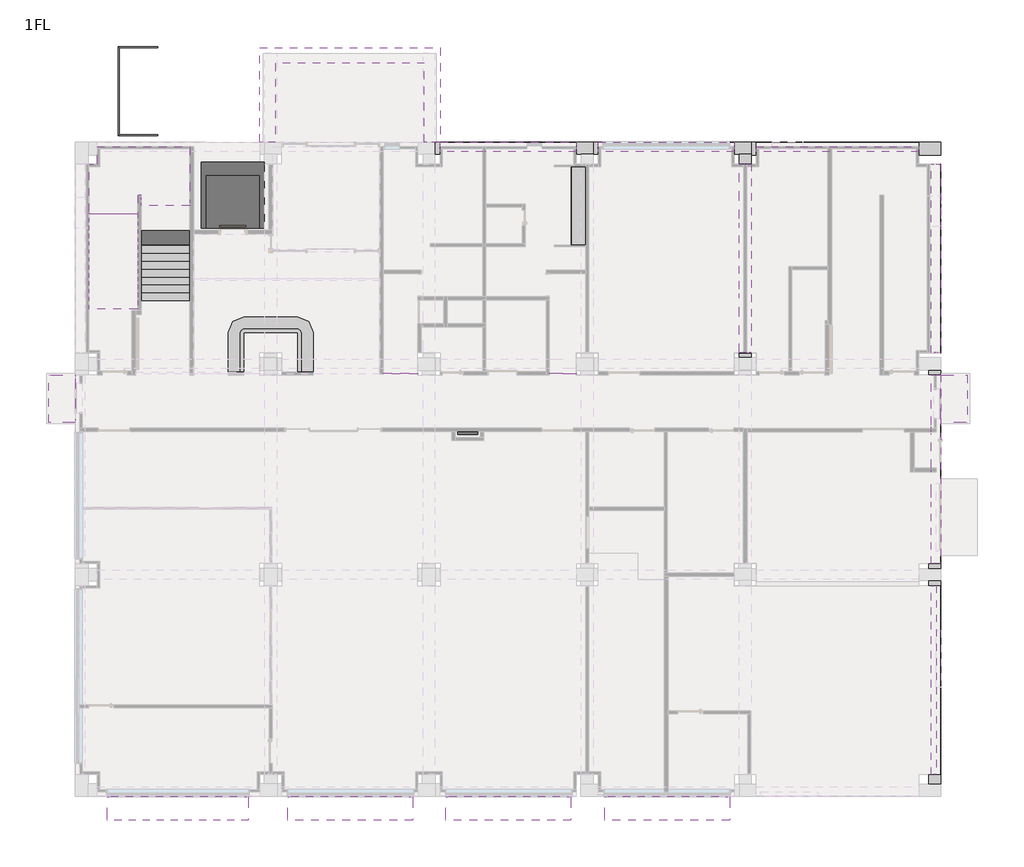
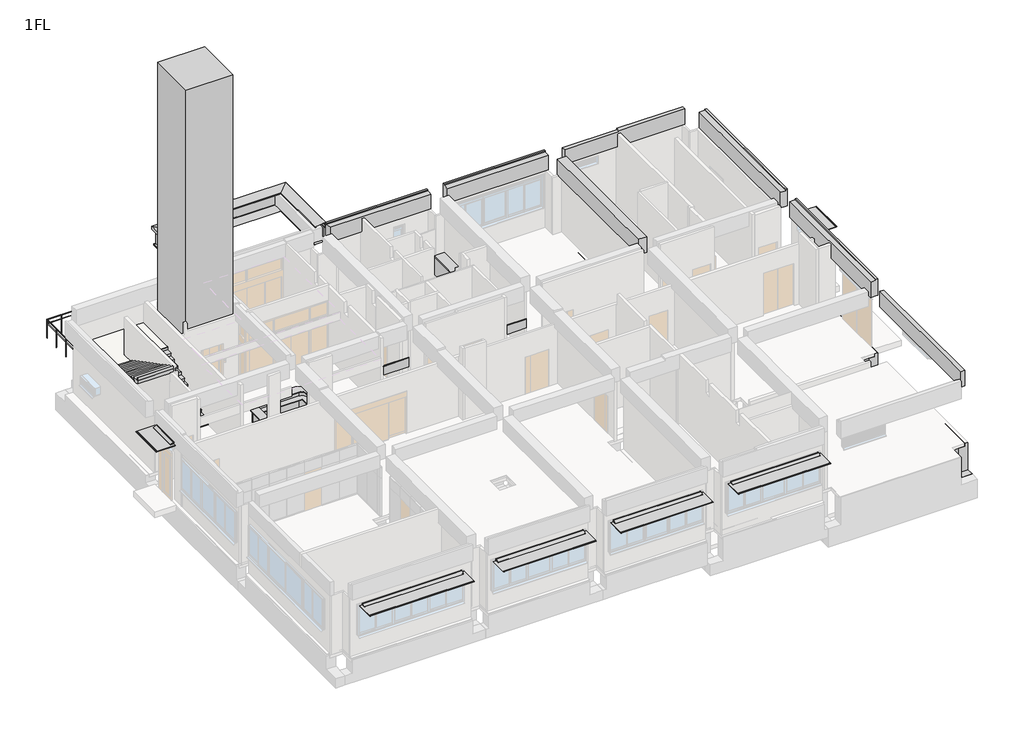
# One storey, part 7 of 7: 15 beams, 11 proxies, 2 stair flights, 1 flow terminal, 1 furniture element, 1 railing, 1 slab.
"""IFC4 building model written with IfcOpenShell, lengths in millimetres."""

from ifc_helpers import new_model, si_unit, frame, origin, place, context, project, spatial, polyline, outline, extrude, faceted_brep, transform, mapped, element, save
from components import generic_models_889831fe, generic_models_706210b3, specialty_equipment_ac76b24c, generic_models_86fe092a, mechanical_equipment_42b1760c, generic_models_8fc78ecc, generic_models_3a1368d3, generic_models_ea9e84d9, flow_terminal_46fab2b1, furniture_925915f6

model = new_model("IFC4")

# Units and contexts
model_context = context("Model", 3, world=origin())
ifc_project = project(units=[si_unit("LENGTHUNIT", "METRE", prefix="MILLI")], contexts=[model_context])

# Site, building, storey
site = spatial("IfcSite", under=ifc_project)
building = spatial("IfcBuilding", under=site)
storey = spatial("IfcBuildingStorey", under=building, Name="1FL", Elevation=0.0)

# Beams
placement = place(None, origin())
element("IfcBeam", 1, ObjectType="営_RC梁 : 2-RG1 350*850", at=placement, inside=storey, context=model_context, shape_type="Brep", body=[
    faceted_brep([(18580.0, 24050.0, 3150.0), (18580.0, 24250.0, 3150.0), (18580.0, 24420.0, 3150.0), (18580.0, 24420.0, 4000.0), (18580.0, 24335.0, 4000.0), (18580.0, 24335.0, 3940.0), (18580.0, 24250.0, 3940.0), (18580.0, 24050.0, 3940.0), (13420.0, 24420.0, 4000.0), (13420.0, 24420.0, 3150.0), (13420.0, 24250.0, 3150.0), (13420.0, 24050.0, 3150.0), (13420.0, 24050.0, 3940.0), (13420.0, 24250.0, 3940.0), (13420.0, 24335.0, 3940.0), (13420.0, 24335.0, 4000.0), (15040.0, 24050.0, 3150.0), (15160.0, 24050.0, 3150.0)], [[[0, 1, 2, 3, 4, 5, 6, 7]], [[8, 9, 10, 11, 12, 13, 14, 15]], [[11, 16, 17, 0, 7, 12]], [[2, 1, 0, 17, 16, 11, 10, 9]], [[3, 2, 9, 8]], [[3, 8, 15, 4]], [[5, 14, 13, 12, 7, 6]], [[14, 5, 4, 15]]]),
])
element("IfcBeam", 2, ObjectType="営_RC梁 : 2-RG1 350*850", at=placement, inside=storey, context=model_context, shape_type="Brep", body=[
    faceted_brep([(24580.0, 24050.0, 3150.0), (24580.0, 24250.0, 3150.0), (24580.0, 24420.0, 3150.0), (24580.0, 24420.0, 4000.0), (24580.0, 24335.0, 4000.0), (24580.0, 24335.0, 3940.0), (24580.0, 24250.0, 3940.0), (24580.0, 24050.0, 3940.0), (19420.0, 24420.0, 4000.0), (19420.0, 24420.0, 3150.0), (19420.0, 24250.0, 3150.0), (19420.0, 24050.0, 3150.0), (19420.0, 24050.0, 3940.0), (19420.0, 24250.0, 3940.0), (19420.0, 24335.0, 3940.0), (19420.0, 24335.0, 4000.0)], [[[0, 1, 2, 3, 4, 5, 6, 7]], [[8, 9, 10, 11, 12, 13, 14, 15]], [[11, 0, 7, 12]], [[2, 1, 0, 11, 10, 9]], [[3, 2, 9, 8]], [[3, 8, 15, 4]], [[5, 14, 13, 12, 7, 6]], [[14, 5, 4, 15]]]),
])
element("IfcBeam", 3, ObjectType="営_RC梁 : 2-RG1 350*850", at=placement, inside=storey, context=model_context, shape_type="SweptSolid", body=[
    extrude(outline(polyline([(3150.0, 31579.9999994), (4000.0, 31579.9999994), (4000.0, 28200.0), (3940.0, 28200.0), (3940.0, 25420.0), (3150.0, 25420.0), (3150.0, 31579.9999994)])), frame((0.0, 24050.0, 0.0), z_axis=(0.0, 1.0, 0.0), x_axis=(0.0, 0.0, 1.0)), (0.0, 0.0, 1.0), 200.0),
])
element("IfcBeam", 4, ObjectType="営_RC梁 : 2-4G12 450*900", at=placement, inside=storey, context=model_context, shape_type="Brep", body=[
    faceted_brep([(25225.0, 16420.0, 3100.0), (25225.0, 23580.0, 3100.0), (25225.0, 23580.0, 3940.0), (25225.0, 16420.0, 3940.0), (25060.0, 16420.0, 3100.0), (24940.0, 16420.0, 3100.0), (24775.0, 16420.0, 3100.0), (24775.0, 23580.0, 3100.0), (24940.0, 23580.0, 3100.0), (25060.0, 23580.0, 3100.0), (24775.0, 16420.0, 3940.0), (24775.0, 18495.0, 3940.0), (24775.0, 18845.0, 3940.0), (24775.0, 21165.0, 3940.0), (24775.0, 21515.0, 3940.0), (24775.0, 23580.0, 3940.0)], [[[0, 1, 2, 3]], [[0, 4, 5, 6, 7, 8, 9, 1]], [[7, 6, 10, 11, 12, 13, 14, 15]], [[6, 5, 4, 0, 3, 10]], [[1, 9, 8, 7, 15, 2]], [[3, 2, 15, 14, 13, 12, 11, 10]]]),
])
element("IfcBeam", 5, ObjectType="営_RC梁 : 2-RG11 350*900", at=placement, inside=storey, context=model_context, shape_type="SweptSolid", body=[
    extrude(outline(polyline([(32050.0, 420.0), (32050.0, 7580.0), (32250.0, 7580.0), (32250.0, 420.0), (32050.0, 420.0)])), frame((0.0, 0.0, 3100.0), z_axis=(0.0, 0.0, 1.0), x_axis=(1.0, 0.0, 0.0)), (0.0, 0.0, 1.0), 840.0),
])
element("IfcBeam", 6, ObjectType="営_RC梁 : 2-RG11 350*900", at=placement, inside=storey, context=model_context, shape_type="Brep", body=[
    faceted_brep([(32420.0, 15580.0, 4000.0), (32420.0, 15580.0, 3100.0), (32250.0, 15580.0, 3100.0), (32050.0, 15580.0, 3100.0), (32050.0, 15580.0, 3940.0), (32250.0, 15580.0, 3940.0), (32325.0, 15580.0, 3940.0), (32325.0, 15580.0, 4000.0), (32050.0, 8420.0, 3100.0), (32250.0, 8420.0, 3100.0), (32420.0, 8420.0, 3100.0), (32420.0, 8420.0, 4000.0), (32325.0, 8420.0, 4000.0), (32325.0, 8420.0, 3940.0), (32250.0, 8420.0, 3940.0), (32050.0, 8420.0, 3940.0), (32050.0, 11905.0, 3100.0), (32050.0, 12055.0, 3100.0), (32050.0, 13405.0, 3100.0), (32050.0, 13555.0, 3100.0), (32050.0, 10575.0, 3940.0), (32050.0, 10925.0, 3940.0), (32050.0, 13325.0, 3940.0), (32050.0, 13675.0, 3940.0)], [[[0, 1, 2, 3, 4, 5, 6, 7]], [[8, 9, 10, 11, 12, 13, 14, 15]], [[1, 0, 11, 10]], [[3, 2, 1, 10, 9, 8, 16, 17, 18, 19]], [[3, 19, 18, 17, 16, 8, 15, 20, 21, 22, 23, 4]], [[11, 0, 7, 12]], [[13, 6, 5, 4, 23, 22, 21, 20, 15, 14]], [[6, 13, 12, 7]]]),
])
element("IfcBeam", 7, ObjectType="営_RC梁 : 2-RG11 350*900", at=placement, inside=storey, context=model_context, shape_type="Brep", body=[
    faceted_brep([(32420.0, 23580.0, 4000.0), (32420.0, 23580.0, 3100.0), (32250.0, 23580.0, 3100.0), (32050.0, 23580.0, 3100.0), (32050.0, 23580.0, 3940.0), (32250.0, 23580.0, 3940.0), (32325.0, 23580.0, 3940.0), (32325.0, 23580.0, 4000.0), (32050.0, 16420.0, 3100.0), (32250.0, 16420.0, 3100.0), (32420.0, 16420.0, 3100.0), (32420.0, 16420.0, 4000.0), (32325.0, 16420.0, 4000.0), (32325.0, 16420.0, 3940.0), (32250.0, 16420.0, 3940.0), (32050.0, 16420.0, 3940.0), (32325.0, 16669.8819845, 4000.0), (32325.0, 16669.8819845, 3940.0)], [[[0, 1, 2, 3, 4, 5, 6, 7]], [[8, 9, 10, 11, 12, 13, 14, 15]], [[1, 0, 11, 10]], [[3, 2, 1, 10, 9, 8]], [[3, 8, 15, 4]], [[11, 0, 7, 16, 12]], [[17, 6, 5, 4, 15, 14, 13]], [[17, 13, 12, 16]], [[6, 17, 16, 7]]]),
])
element("IfcBeam", 8, ObjectType="営_RC梁 : FG3 450*1850", at=placement, inside=storey, context=model_context, shape_type="Brep", body=[
    faceted_brep([(19225.0, 23950.0, -1950.0), (19225.0, 23950.0, -1350.0), (18775.0, 23950.0, -1350.0), (18600.0, 23950.0, -1350.0), (18580.0, 23950.0, -1350.0), (18580.0, 23950.0, -160.0), (13420.0, 23950.0, -160.0), (13420.0, 23950.0, -1350.0), (13400.0, 23950.0, -1350.0), (13225.0, 23950.0, -1350.0), (13225.0, 23950.0, -1950.0), (14350.0, 23950.0, -1950.0), (17650.0, 23950.0, -1950.0), (18775.0, 23950.0, -1950.0), (19225.0, 24420.0, -1950.0), (13225.0, 24420.0, -1950.0), (14350.0, 24420.0, -1950.0), (17650.0, 24420.0, -1950.0), (13420.0, 24420.0, -1350.0), (13420.0, 24420.0, -10.0), (16740.0, 24420.0, -10.0), (17260.0, 24420.0, -10.0), (18580.0, 24420.0, -10.0), (18580.0, 24420.0, -1350.0), (19225.0, 24420.0, -1350.0), (13225.0, 24420.0, -1350.0), (13420.0, 24250.0, -10.0), (16710.0, 24250.0, -10.0), (17290.0, 24250.0, -10.0), (18580.0, 24250.0, -10.0), (13420.0, 24250.0, -160.0), (18580.0, 24250.0, -160.0)], [[[0, 1, 2, 3, 4, 5, 6, 7, 8, 9, 10, 11, 12, 13]], [[14, 0, 13, 12, 11, 10, 15, 16, 17]], [[18, 19, 20, 21, 22, 23, 24, 14, 17, 16, 15, 25]], [[22, 21, 20, 19, 26, 27, 28, 29]], [[19, 18, 7, 6, 30, 26]], [[23, 22, 29, 31, 5, 4]], [[0, 14, 24, 1]], [[7, 18, 25, 9, 8]], [[23, 4, 3, 2, 1, 24]], [[10, 9, 25, 15]], [[31, 30, 6, 5]], [[30, 31, 29, 28, 27, 26]]]),
])
element("IfcBeam", 9, ObjectType="営_RC梁 : FG3 450*1850", at=placement, inside=storey, context=model_context, shape_type="Brep", body=[
    faceted_brep([(25225.0, 23950.0, -1950.0), (25225.0, 23950.0, -1350.0), (24775.0, 23950.0, -1350.0), (24600.0, 23950.0, -1350.0), (24580.0, 23950.0, -1350.0), (24580.0, 23950.0, -250.0), (19420.0, 23950.0, -250.0), (19420.0, 23950.0, -1350.0), (19400.0, 23950.0, -1350.0), (19225.0, 23950.0, -1350.0), (19225.0, 23950.0, -1950.0), (20350.0, 23950.0, -1950.0), (23650.0, 23950.0, -1950.0), (24775.0, 23950.0, -1950.0), (25225.0, 24420.0, -1950.0), (19225.0, 24420.0, -1950.0), (20350.0, 24420.0, -1950.0), (23650.0, 24420.0, -1950.0), (19420.0, 24420.0, -1350.0), (19420.0, 24420.0, -10.0), (24580.0, 24420.0, -10.0), (24580.0, 24420.0, -1350.0), (25225.0, 24420.0, -1350.0), (19225.0, 24420.0, -1350.0), (19420.0, 24250.0, -10.0), (19420.0, 23950.0, -10.0), (24580.0, 23950.0, -10.0), (24580.0, 24250.0, -10.0), (19420.0, 24250.0, -250.0), (19420.0, 24250.0, -100.0), (19420.0, 23950.0, -100.0), (24580.0, 23950.0, -100.0), (24580.0, 24250.0, -100.0), (24580.0, 24250.0, -250.0)], [[[0, 1, 2, 3, 4, 5, 6, 7, 8, 9, 10, 11, 12, 13]], [[14, 0, 13, 12, 11, 10, 15, 16, 17]], [[18, 19, 20, 21, 22, 14, 17, 16, 15, 23]], [[19, 24, 25, 26, 27, 20]], [[19, 18, 7, 6, 28, 29, 30, 25, 24]], [[21, 20, 27, 26, 31, 32, 33, 5, 4]], [[0, 14, 22, 1]], [[7, 18, 23, 9, 8]], [[21, 4, 3, 2, 1, 22]], [[10, 9, 23, 15]], [[33, 28, 6, 5]], [[29, 32, 31, 30]], [[28, 33, 32, 29]], [[26, 25, 30, 31]]]),
])
element("IfcBeam", 10, ObjectType="営_RC梁 : FG13 450*1850", at=placement, inside=storey, context=model_context, shape_type="Brep", body=[
    faceted_brep([(25225.0, 16420.0, -1500.0), (25225.0, 16400.0, -1500.0), (25225.0, 16245.0, -1500.0), (25225.0, 16245.0, -1950.0), (25225.0, 17650.0, -1950.0), (25225.0, 22650.0, -1950.0), (25225.0, 23930.0, -1950.0), (25225.0, 23950.0, -1950.0), (25225.0, 23950.0, -1350.0), (25225.0, 23930.0, -1350.0), (25225.0, 23600.0, -1350.0), (25225.0, 23580.0, -1350.0), (25225.0, 23580.0, -160.0), (25225.0, 16420.0, -160.0), (24775.0, 16245.0, -1950.0), (24775.0, 17650.0, -1950.0), (24775.0, 22650.0, -1950.0), (24775.0, 23950.0, -1950.0), (24775.0, 16245.0, -1500.0), (24775.0, 16420.0, -1500.0), (24775.0, 16400.0, -1500.0), (24775.0, 23580.0, -1350.0), (24775.0, 23950.0, -1350.0), (24775.0, 23600.0, -1350.0), (25000.0, 23580.0, -160.0), (25000.0, 16420.0, -160.0), (25000.0, 16420.0, -250.0), (25000.0, 23580.0, -250.0), (24775.0, 23580.0, -250.0), (24775.0, 21515.0, -250.0), (24775.0, 21165.0, -250.0), (24775.0, 16420.0, -250.0)], [[[0, 1, 2, 3, 4, 5, 6, 7, 8, 9, 10, 11, 12, 13]], [[3, 14, 15, 16, 17, 7, 6, 5, 4]], [[14, 3, 2, 18]], [[0, 19, 20, 18, 2, 1]], [[21, 11, 10, 9, 8, 22, 23]], [[8, 7, 17, 22]], [[13, 12, 24, 25]], [[26, 27, 28, 29, 30, 31]], [[27, 26, 25, 24]], [[18, 20, 19, 31, 30, 29, 28, 21, 23, 22, 17, 16, 15, 14]], [[19, 0, 13, 25, 26, 31]], [[11, 21, 28, 27, 24, 12]]]),
    faceted_brep([(24775.0, 16420.0, -10.0), (24775.0, 23580.0, -10.0), (24775.0, 23580.0, -100.0), (24775.0, 16420.0, -100.0), (25000.0, 16420.0, -10.0), (25000.0, 23580.0, -10.0), (25000.0, 16420.0, -100.0), (25000.0, 23580.0, -100.0)], [[[0, 1, 2, 3]], [[1, 0, 4, 5]], [[4, 0, 3, 6]], [[1, 5, 7, 2]], [[5, 4, 6, 7]], [[3, 2, 7, 6]]]),
])
element("IfcBeam", 11, ObjectType="営_RC梁 : FG3 450*1850", at=placement, inside=storey, context=model_context, shape_type="Brep", body=[
    faceted_brep([(25225.0, 23930.0, -1350.0), (25225.0, 23930.0, -1950.0), (26350.0, 23930.0, -1950.0), (28025.0, 23930.0, -1950.0), (28395.0, 23930.0, -1950.0), (30650.0, 23930.0, -1950.0), (32420.0, 23930.0, -1950.0), (32420.0, 23930.0, -1354.2105263), (32420.0, 23930.0, -1350.0), (32400.0, 23930.0, -1350.0), (31600.0, 23930.0, -1350.0), (31580.0, 23930.0, -1350.0), (31580.0, 23930.0, -160.0), (28395.0, 23930.0, -160.0), (28025.0, 23930.0, -160.0), (25420.0, 23930.0, -160.0), (25420.0, 23930.0, -1350.0), (25400.0, 23930.0, -1350.0), (32420.0, 24420.0, -1950.0), (25225.0, 23950.0, -1950.0), (25225.0, 24420.0, -1950.0), (26350.0, 24420.0, -1950.0), (30650.0, 24420.0, -1950.0), (25420.0, 24420.0, -1350.0), (25420.0, 24420.0, -10.0), (31580.0, 24420.0, -10.0), (31580.0, 24420.0, -1350.0), (32420.0, 24420.0, -1350.0), (32420.0, 24420.0, -1354.2105263), (25225.0, 24420.0, -1350.0), (25420.0, 24250.0, -10.0), (31580.0, 24250.0, -10.0), (25225.0, 23950.0, -1350.0), (25420.0, 24250.0, -160.0), (31580.0, 24250.0, -160.0)], [[[0, 1, 2, 3, 4, 5, 6, 7, 8, 9, 10, 11, 12, 13, 14, 15, 16, 17]], [[18, 6, 5, 4, 3, 2, 1, 19, 20, 21, 22]], [[23, 24, 25, 26, 27, 28, 18, 22, 21, 20, 29]], [[25, 24, 30, 31]], [[20, 19, 1, 0, 32, 29]], [[24, 23, 16, 15, 33, 30]], [[26, 25, 31, 34, 12, 11]], [[6, 18, 28, 27, 8, 7]], [[16, 23, 29, 32, 0, 17]], [[26, 11, 10, 9, 8, 27]], [[34, 33, 15, 14, 13, 12]], [[33, 34, 31, 30]]]),
])
element("IfcBeam", 12, ObjectType="営_RC梁 : FG14 450*2400", at=placement, inside=storey, context=model_context, shape_type="Brep", body=[
    faceted_brep([(32420.0, 420.0, -10.0), (32420.0, 420.0, -1500.0), (32420.0, 50.0, -1500.0), (32420.0, 50.0, -2500.0), (32420.0, 1500.0, -2500.0), (32420.0, 6500.0, -2500.0), (32420.0, 7775.0, -2500.0), (32420.0, 7775.0, -1500.0), (32420.0, 7580.0, -1500.0), (32420.0, 7580.0, -10.0), (31950.0, 50.0, -2500.0), (31950.0, 1500.0, -2500.0), (31950.0, 6500.0, -2500.0), (31950.0, 7775.0, -2500.0), (31950.0, 50.0, -1500.0), (31950.0, 400.0, -1500.0), (31950.0, 420.0, -1500.0), (31950.0, 420.0, -160.0), (31950.0, 7580.0, -160.0), (31950.0, 7580.0, -1500.0), (31950.0, 7600.0, -1500.0), (31950.0, 7775.0, -1500.0), (32250.0, 7580.0, -10.0), (32250.0, 420.0, -10.0), (32250.0, 420.0, -160.0), (32250.0, 7580.0, -160.0)], [[[0, 1, 2, 3, 4, 5, 6, 7, 8, 9]], [[3, 10, 11, 12, 13, 6, 5, 4]], [[14, 15, 16, 17, 18, 19, 20, 21, 13, 12, 11, 10]], [[0, 9, 22, 23]], [[1, 0, 23, 24, 17, 16]], [[9, 8, 19, 18, 25, 22]], [[1, 16, 15, 14, 2]], [[19, 8, 7, 21, 20]], [[3, 2, 14, 10]], [[7, 6, 13, 21]], [[24, 25, 18, 17]], [[25, 24, 23, 22]]]),
])
element("IfcBeam", 13, ObjectType="営_RC梁 : FG14 450*2400", at=placement, inside=storey, context=model_context, shape_type="Brep", body=[
    faceted_brep([(32420.0, 15580.0, -1900.0), (32420.0, 15580.0, -10.0), (32420.0, 8420.0, -10.0), (32420.0, 8420.0, -1500.0), (32420.0, 8225.0, -1500.0), (32420.0, 8225.0, -2500.0), (32420.0, 9500.0, -2500.0), (32420.0, 14650.0, -2500.0), (32420.0, 15775.0, -2500.0), (32420.0, 15775.0, -1900.0), (31950.0, 8225.0, -2500.0), (31950.0, 9500.0, -2500.0), (31950.0, 14650.0, -2500.0), (31950.0, 15775.0, -2500.0), (31950.0, 8225.0, -1500.0), (31950.0, 8400.0, -1500.0), (31950.0, 8420.0, -1500.0), (31950.0, 8420.0, -160.0), (31950.0, 10575.0, -160.0), (31950.0, 10925.0, -160.0), (31950.0, 13325.0, -160.0), (31950.0, 13675.0, -160.0), (31950.0, 15580.0, -160.0), (31950.0, 15580.0, -1900.0), (31950.0, 15600.0, -1900.0), (31950.0, 15775.0, -1900.0), (32250.0, 15580.0, -10.0), (32250.0, 13555.0, -10.0), (32250.0, 8420.0, -10.0), (32250.0, 8420.0, -160.0), (32250.0, 15580.0, -160.0), (32250.0, 13555.0, -160.0)], [[[0, 1, 2, 3, 4, 5, 6, 7, 8, 9]], [[5, 10, 11, 12, 13, 8, 7, 6]], [[14, 15, 16, 17, 18, 19, 20, 21, 22, 23, 24, 25, 13, 12, 11, 10]], [[2, 1, 26, 27, 28]], [[16, 3, 2, 28, 29, 17]], [[1, 0, 23, 22, 30, 26]], [[3, 16, 15, 14, 4]], [[23, 0, 9, 25, 24]], [[5, 4, 14, 10]], [[9, 8, 13, 25]], [[29, 31, 30, 22, 21, 20, 19, 18, 17]], [[31, 27, 26, 30]], [[27, 31, 29, 28]]]),
])
element("IfcBeam", 14, ObjectType="営_RC梁 : FG11 450*1200", at=placement, inside=storey, context=model_context, shape_type="Brep", body=[
    faceted_brep([(32420.0, 16420.0, -10.0), (32420.0, 16420.0, -1300.0), (32420.0, 23580.0, -1300.0), (32420.0, 23580.0, -10.0), (31930.0, 16420.0, -1300.0), (31930.0, 23580.0, -1300.0), (31930.0, 16420.0, -160.0), (31930.0, 17955.0, -160.0), (31930.0, 18245.0, -160.0), (31930.0, 23580.0, -160.0), (32250.0, 23580.0, -10.0), (32250.0, 16420.0, -10.0), (32250.0, 16420.0, -160.0), (32250.0, 23580.0, -160.0)], [[[0, 1, 2, 3]], [[1, 4, 5, 2]], [[5, 4, 6, 7, 8, 9]], [[0, 3, 10, 11]], [[1, 0, 11, 12, 6, 4]], [[3, 2, 5, 9, 13, 10]], [[12, 13, 9, 8, 7, 6]], [[13, 12, 11, 10]]]),
])
element("IfcBeam", 15, ObjectType="営_RC梁 : B4 350*750", at=placement, inside=storey, context=model_context, shape_type="Brep", body=[
    faceted_brep([(28395.0, 16245.0, -1950.0), (28395.0, 23930.0, -1950.0), (28395.0, 23930.0, -160.0), (28395.0, 18245.0, -160.0), (28395.0, 17955.0, -160.0), (28395.0, 16245.0, -160.0), (28025.0, 16245.0, -1950.0), (28025.0, 23930.0, -1950.0), (28025.0, 16245.0, -160.0), (28025.0, 23930.0, -160.0)], [[[0, 1, 2, 3, 4, 5]], [[0, 6, 7, 1]], [[7, 6, 8, 9]], [[1, 7, 9, 2]], [[6, 0, 5, 8]], [[5, 4, 3, 2, 9, 8]]]),
])

# Proxies
generic_models_shape = generic_models_889831fe(model_context)
element("IfcBuildingElementProxy", 16, Name="営_付庇_窓 : 付庇", ObjectType="営_付庇_窓 : 付庇", at=placement, inside=storey, context=model_context, shape_type="MappedRepresentation", body=[
    mapped(generic_models_shape, transform((3476.2951348, -420.0, 0.0), x_axis=(1.0, 0.0, 0.0), y_axis=(0.0, 1.0, 0.0), z_axis=(0.0, 0.0, 1.0))),
])
generic_models_2_shape = generic_models_706210b3(model_context)
element("IfcBuildingElementProxy", 17, Name="営_付庇_窓 : 付庇", ObjectType="営_付庇_窓 : 付庇", at=placement, inside=storey, context=model_context, shape_type="MappedRepresentation", body=[
    mapped(generic_models_2_shape, transform((10011.2951348, -420.0, 0.0), x_axis=(1.0, 0.0, 0.0), y_axis=(0.0, 1.0, 0.0), z_axis=(0.0, 0.0, 1.0))),
])
element("IfcBuildingElementProxy", 18, Name="営_付庇_窓 : 付庇", ObjectType="営_付庇_窓 : 付庇", at=placement, inside=storey, context=model_context, shape_type="MappedRepresentation", body=[
    mapped(generic_models_2_shape, transform((16011.2951348, -420.0, 0.0), x_axis=(1.0, 0.0, 0.0), y_axis=(0.0, 1.0, 0.0), z_axis=(0.0, 0.0, 1.0))),
])
element("IfcBuildingElementProxy", 19, Name="営_付庇_窓 : 付庇", ObjectType="営_付庇_窓 : 付庇", at=placement, inside=storey, context=model_context, shape_type="MappedRepresentation", body=[
    mapped(generic_models_2_shape, transform((22031.2951348, -420.0, 0.0), x_axis=(1.0, 0.0, 0.0), y_axis=(0.0, 1.0, 0.0), z_axis=(0.0, 0.0, 1.0))),
])
specialty_equipment_shape = specialty_equipment_ac76b24c(model_context)
element("IfcBuildingElementProxy", 20, Name="営_屋内消火栓 : 屋内消火栓", ObjectType="営_屋内消火栓 : 屋内消火栓", at=placement, inside=storey, context=model_context, shape_type="MappedRepresentation", body=[
    mapped(specialty_equipment_shape, transform((14470.0, 13560.0, 0.0), x_axis=(1.0, 0.0, 0.0), y_axis=(0.0, 1.0, 0.0), z_axis=(0.0, 0.0, 1.0))),
])
generic_models_3_shape = generic_models_86fe092a(model_context)
element("IfcBuildingElementProxy", 21, Name="営_付庇_小 : 付庇_小", ObjectType="営_付庇_小 : 付庇_小", at=placement, inside=storey, context=model_context, shape_type="MappedRepresentation", body=[
    mapped(generic_models_3_shape, transform((-419.6538678, 14680.0, 0.0), x_axis=(0.0, -1.0, 0.0), y_axis=(1.0, 0.0, 0.0), z_axis=(0.0, 0.0, 1.0))),
])
element("IfcBuildingElementProxy", 22, Name="営_付庇_小 : 付庇_小", ObjectType="営_付庇_小 : 付庇_小", at=placement, inside=storey, context=model_context, shape_type="MappedRepresentation", body=[
    mapped(generic_models_3_shape, transform((32420.0, 14680.0, 0.0), x_axis=(0.0, 1.0, 0.0), y_axis=(-1.0, 0.0, 0.0), z_axis=(0.0, 0.0, 1.0))),
])
mechanical_equipment_shape = mechanical_equipment_42b1760c(model_context)
element("IfcBuildingElementProxy", 23, Name="営_EV 3D 簡易 : 営_EV 3D 簡易", ObjectType="営_EV 3D 簡易 : 営_EV 3D 簡易", at=placement, inside=storey, context=model_context, shape_type="MappedRepresentation", body=[
    mapped(mechanical_equipment_shape, transform((5560.0, 21000.0, 0.0), x_axis=(1.0, 0.0, 0.0), y_axis=(0.0, 1.0, 0.0), z_axis=(0.0, 0.0, 1.0))),
])
generic_models_4_shape = generic_models_8fc78ecc(model_context)
element("IfcBuildingElementProxy", 24, Name="防煙垂壁 : 可動防煙垂壁", ObjectType="防煙垂壁 : 可動防煙垂壁", at=placement, inside=storey, context=model_context, shape_type="MappedRepresentation", body=[
    mapped(generic_models_4_shape, transform((12580.0, 15630.0, 0.0), x_axis=(-1.0, 0.0, 0.0), y_axis=(0.0, -1.0, 0.0), z_axis=(0.0, 0.0, 1.0))),
])
generic_models_5_shape = generic_models_3a1368d3(model_context)
element("IfcBuildingElementProxy", 25, Name="防煙垂壁 : 可動防煙垂壁", ObjectType="防煙垂壁 : 可動防煙垂壁", at=placement, inside=storey, context=model_context, shape_type="MappedRepresentation", body=[
    mapped(generic_models_5_shape, transform((18580.0, 15630.0, 0.0), x_axis=(-1.0, 0.0, 0.0), y_axis=(0.0, -1.0, 0.0), z_axis=(0.0, 0.0, 1.0))),
])
generic_models_6_shape = generic_models_ea9e84d9(model_context)
element("IfcBuildingElementProxy", 26, Name="営_エントランス庇金物1 : エントランス庇金物", ObjectType="営_エントランス庇金物1 : エントランス庇金物", at=placement, inside=storey, context=model_context, shape_type="MappedRepresentation", body=[
    mapped(generic_models_6_shape, transform((0.0, 0.0, 0.0), x_axis=(1.0, 0.0, 0.0), y_axis=(0.0, 1.0, 0.0), z_axis=(0.0, 0.0, 1.0))),
])

# Flow terminal
flow_terminal_shape = flow_terminal_46fab2b1(model_context)
element("IfcFlowTerminal", 27, ObjectType="ライニング : ライニング", at=placement, inside=storey, context=model_context, shape_type="MappedRepresentation", body=[
    mapped(flow_terminal_shape, transform((19000.0, 21870.0, 0.0), x_axis=(0.0, 1.0, 0.0), y_axis=(-1.0, 0.0, 0.0), z_axis=(0.0, 0.0, 1.0))),
])

# Furniture
furniture_shape = furniture_925915f6(model_context)
element("IfcFurniture", 28, ObjectType="営_受付カウンター_3D : 受付カウンター_3D", at=placement, inside=storey, context=model_context, shape_type="MappedRepresentation", body=[
    mapped(furniture_shape, transform((0.0, 0.0, 0.0), x_axis=(1.0, 0.0, 0.0), y_axis=(0.0, 1.0, 0.0), z_axis=(0.0, 0.0, 1.0))),
])

# Railing
element("IfcRailing", 29, ObjectType="外部スロープ手摺_H=1000", at=placement, inside=storey, context=model_context, shape_type="SolidModel", body=[
    faceted_brep([(1211.0, 28044.0, 801.0), (1249.0, 28006.0, 801.0), (1249.0, 24694.0, 801.0), (1211.0, 24656.0, 801.0), (1211.0, 28044.0, 810.0), (1211.0, 24656.0, 810.0), (1249.0, 28006.0, 810.0), (1249.0, 24694.0, 810.0), (2715.0, 28006.0, 801.0), (2715.0, 28044.0, 801.0), (2715.0, 28044.0, 810.0), (2715.0, 28006.0, 810.0), (2715.0, 24694.0, 801.0), (2715.0, 24694.0, 810.0), (2715.0, 24656.0, 810.0), (2715.0, 24656.0, 801.0)], [[[0, 1, 2, 3]], [[4, 0, 3, 5]], [[6, 4, 5, 7]], [[1, 6, 7, 2]], [[8, 9, 10, 11]], [[9, 8, 1, 0]], [[10, 9, 0, 4]], [[11, 10, 4, 6]], [[8, 11, 6, 1]], [[12, 13, 14, 15]], [[3, 2, 12, 15]], [[5, 3, 15, 14]], [[7, 5, 14, 13]], [[2, 7, 13, 12]]]),
    faceted_brep([(1217.5, 28037.5, 610.0), (1217.5, 28037.5, 601.0), (1217.5, 24662.5, 601.0), (1217.5, 24662.5, 610.0), (1242.5, 28012.5, 610.0), (1242.5, 24687.5, 610.0), (1242.5, 28012.5, 601.0), (1242.5, 24687.5, 601.0), (2715.0, 28037.5, 601.0), (2715.0, 28037.5, 610.0), (2715.0, 28012.5, 610.0), (2715.0, 28012.5, 601.0), (2715.0, 24662.5, 601.0), (2715.0, 24687.5, 601.0), (2715.0, 24687.5, 610.0), (2715.0, 24662.5, 610.0)], [[[0, 1, 2, 3]], [[4, 0, 3, 5]], [[6, 4, 5, 7]], [[1, 6, 7, 2]], [[8, 9, 10, 11]], [[9, 8, 1, 0]], [[10, 9, 0, 4]], [[11, 10, 4, 6]], [[8, 11, 6, 1]], [[12, 13, 14, 15]], [[3, 2, 12, 15]], [[5, 3, 15, 14]], [[7, 5, 14, 13]], [[2, 7, 13, 12]]]),
    extrude(outline(polyline([(1968.0, 24662.5), (1968.0, 24687.5), (1977.0, 24687.5), (1977.0, 24662.5), (1968.0, 24662.5)])), frame((0.0, 0.0, -190.0), z_axis=(0.0, 0.0, 1.0), x_axis=(1.0, 0.0, 0.0)), (0.0, 0.0, 1.0), 991.0),
    extrude(outline(polyline([(1217.5, 25517.0), (1242.5, 25517.0), (1242.5, 25508.0), (1217.5, 25508.0), (1217.5, 25517.0)])), frame((0.0, 0.0, -190.0), z_axis=(0.0, 0.0, 1.0), x_axis=(1.0, 0.0, 0.0)), (0.0, 0.0, 1.0), 991.0),
    extrude(outline(polyline([(1217.5, 26354.5), (1242.5, 26354.5), (1242.5, 26345.5), (1217.5, 26345.5), (1217.5, 26354.5)])), frame((0.0, 0.0, -190.0), z_axis=(0.0, 0.0, 1.0), x_axis=(1.0, 0.0, 0.0)), (0.0, 0.0, 1.0), 991.0),
    extrude(outline(polyline([(1217.5, 27192.0), (1242.5, 27192.0), (1242.5, 27183.0), (1217.5, 27183.0), (1217.5, 27192.0)])), frame((0.0, 0.0, -190.0), z_axis=(0.0, 0.0, 1.0), x_axis=(1.0, 0.0, 0.0)), (0.0, 0.0, 1.0), 991.0),
    extrude(outline(polyline([(1977.0, 28037.5), (1977.0, 28012.5), (1968.0, 28012.5), (1968.0, 28037.5), (1977.0, 28037.5)])), frame((0.0, 0.0, -190.0), z_axis=(0.0, 0.0, 1.0), x_axis=(1.0, 0.0, 0.0)), (0.0, 0.0, 1.0), 991.0),
    extrude(outline(polyline([(1217.5, 24679.5), (1242.5, 24679.5), (1242.5, 24670.5), (1217.5, 24670.5), (1217.5, 24679.5)])), frame((0.0, 0.0, -190.0), z_axis=(0.0, 0.0, 1.0), x_axis=(1.0, 0.0, 0.0)), (0.0, 0.0, 1.0), 991.0),
    extrude(outline(polyline([(1234.5, 28037.5), (1234.5, 28012.5), (1225.5, 28012.5), (1225.5, 28037.5), (1234.5, 28037.5)])), frame((0.0, 0.0, -190.0), z_axis=(0.0, 0.0, 1.0), x_axis=(1.0, 0.0, 0.0)), (0.0, 0.0, 1.0), 991.0),
    extrude(outline(polyline([(2660.5, 24662.5), (2660.5, 24687.5), (2669.5, 24687.5), (2669.5, 24662.5), (2660.5, 24662.5)])), frame((0.0, 0.0, -190.0), z_axis=(0.0, 0.0, 1.0), x_axis=(1.0, 0.0, 0.0)), (0.0, 0.0, 1.0), 991.0),
    extrude(outline(polyline([(2669.5, 28037.5), (2669.5, 28012.5), (2660.5, 28012.5), (2660.5, 28037.5), (2669.5, 28037.5)])), frame((0.0, 0.0, -190.0), z_axis=(0.0, 0.0, 1.0), x_axis=(1.0, 0.0, 0.0)), (0.0, 0.0, 1.0), 991.0),
])

# Slab
element("IfcSlab", 30, ObjectType="200+20", at=placement, inside=storey, context=model_context, shape_type="Brep", body=[
    faceted_brep([(115.0, 21700.0, 2030.0), (115.0, 21680.0, 2030.0), (1945.0, 21680.0, 2030.0), (1945.0, 21700.0, 2030.0), (1945.0, 21776.1491315, 2030.0), (1945.0, 22410.0, 2030.0), (2095.0, 22410.0, 2030.0), (2095.0, 22223.8508685, 2030.0), (2095.0, 22020.0, 2030.0), (3925.0, 22020.0, 2030.0), (3925.0, 22223.8508685, 2030.0), (3925.0, 24250.0, 2030.0), (420.0, 24250.0, 2030.0), (420.0, 23580.0, 2030.0), (115.0, 23580.0, 2030.0), (115.0, 21776.1491315, 2030.0), (2095.0, 22020.0, 1872.3076923), (2095.0, 22020.0, 1702.8476204), (3925.0, 22020.0, 1702.8476204), (3925.0, 22020.0, 1872.3076923), (3925.0, 22223.8508685, 1810.0), (3925.0, 24250.0, 1810.0), (420.0, 24250.0, 1810.0), (115.0, 21700.0, 1850.0271076), (115.0, 23580.0, 1810.0), (115.0, 21776.1491315, 1810.0), (115.0, 21680.0, 1860.5399281), (1945.0, 21680.0, 1860.5399281), (1945.0, 21700.0, 1850.0271076), (1945.0, 21776.1491315, 1810.0), (1945.0, 22410.0, 1810.0), (2095.0, 22223.8508685, 1810.0), (2095.0, 22410.0, 1810.0), (420.0, 23580.0, 1810.0)], [[[0, 1, 2, 3, 4, 5, 6, 7, 8, 9, 10, 11, 12, 13, 14, 15]], [[9, 8, 16, 17, 18, 19]], [[9, 19, 18, 20, 21, 11, 10]], [[12, 11, 21, 22]], [[23, 0, 15, 14, 24, 25]], [[2, 1, 26, 27]], [[3, 28, 29, 30, 5, 4]], [[20, 31, 32, 30, 29, 25, 24, 33, 22, 21]], [[31, 20, 18, 17]], [[25, 29, 28, 27, 26, 23]], [[6, 5, 30, 32]], [[6, 32, 31, 17, 16, 8, 7]], [[13, 12, 22, 33]], [[14, 13, 33, 24]], [[1, 0, 23, 26]], [[3, 2, 27, 28]]]),
    faceted_brep([(115.0, 21700.0, 2050.0), (1945.0, 21700.0, 2050.0), (1945.0, 22410.0, 2050.0), (2095.0, 22410.0, 2050.0), (2095.0, 22000.0, 2050.0), (3925.0, 22000.0, 2050.0), (3925.0, 24250.0, 2050.0), (420.0, 24250.0, 2050.0), (420.0, 23580.0, 2050.0), (115.0, 23580.0, 2050.0), (115.0, 21700.0, 2030.0), (115.0, 23580.0, 2030.0), (420.0, 23580.0, 2030.0), (420.0, 24250.0, 2030.0), (3925.0, 24250.0, 2030.0), (3925.0, 22020.0, 2030.0), (3925.0, 22000.0, 2030.0), (2095.0, 22000.0, 2030.0), (2095.0, 22020.0, 2030.0), (2095.0, 22410.0, 2030.0), (1945.0, 22410.0, 2030.0), (1945.0, 21700.0, 2030.0)], [[[0, 1, 2, 3, 4, 5, 6, 7, 8, 9]], [[10, 11, 12, 13, 14, 15, 16, 17, 18, 19, 20, 21]], [[1, 0, 10, 21]], [[2, 1, 21, 20]], [[3, 2, 20, 19]], [[4, 3, 19, 18, 17]], [[5, 4, 17, 16]], [[6, 5, 16, 15, 14]], [[7, 6, 14, 13]], [[8, 7, 13, 12]], [[9, 8, 12, 11]], [[0, 9, 11, 10]]]),
])

# Stair flights
element("IfcStairFlight", 31, ObjectType="150+20", at=placement, inside=storey, context=model_context, shape_type="SolidModel", body=[
    faceted_brep([(2095.0, 18720.0, 137.6923077), (2095.0, 18420.0, 137.6923077), (3925.0, 18420.0, 137.6923077), (3925.0, 18720.0, 137.6923077), (2095.0, 18720.0, 0.0), (2095.0, 18420.0, 0.0), (3925.0, 18420.0, 0.0), (3925.0, 18720.0, 0.0), (2095.0, 19020.0, 295.3846154), (2095.0, 18720.0, 295.3846154), (3925.0, 18720.0, 295.3846154), (3925.0, 19020.0, 295.3846154), (2095.0, 19020.0, 125.9245435), (2095.0, 18780.4362344, 0.0), (3925.0, 18780.4362344, 0.0), (3925.0, 19020.0, 125.9245435), (2095.0, 19320.0, 453.0769231), (2095.0, 19020.0, 453.0769231), (3925.0, 19020.0, 453.0769231), (3925.0, 19320.0, 453.0769231), (2095.0, 19320.0, 283.6168512), (3925.0, 19320.0, 283.6168512), (2095.0, 19620.0, 610.7692308), (2095.0, 19320.0, 610.7692308), (3925.0, 19320.0, 610.7692308), (3925.0, 19620.0, 610.7692308), (2095.0, 19620.0, 441.3091588), (3925.0, 19620.0, 441.3091588), (2095.0, 19920.0, 768.4615385), (2095.0, 19620.0, 768.4615385), (3925.0, 19620.0, 768.4615385), (3925.0, 19920.0, 768.4615385), (2095.0, 19920.0, 599.0014665), (3925.0, 19920.0, 599.0014665), (2095.0, 20220.0, 926.1538462), (2095.0, 19920.0, 926.1538462), (3925.0, 19920.0, 926.1538462), (3925.0, 20220.0, 926.1538462), (2095.0, 20220.0, 756.6937742), (3925.0, 20220.0, 756.6937742), (2095.0, 20520.0, 1083.8461538), (2095.0, 20220.0, 1083.8461538), (3925.0, 20220.0, 1083.8461538), (3925.0, 20520.0, 1083.8461538), (2095.0, 20520.0, 914.3860819), (3925.0, 20520.0, 914.3860819), (2095.0, 20820.0, 1241.5384615), (2095.0, 20520.0, 1241.5384615), (3925.0, 20520.0, 1241.5384615), (3925.0, 20820.0, 1241.5384615), (2095.0, 20820.0, 1072.0783896), (3925.0, 20820.0, 1072.0783896), (2095.0, 21120.0, 1399.2307692), (2095.0, 20820.0, 1399.2307692), (3925.0, 20820.0, 1399.2307692), (3925.0, 21120.0, 1399.2307692), (2095.0, 21120.0, 1229.7706973), (3925.0, 21120.0, 1229.7706973), (2095.0, 21420.0, 1556.9230769), (2095.0, 21120.0, 1556.9230769), (3925.0, 21120.0, 1556.9230769), (3925.0, 21420.0, 1556.9230769), (2095.0, 21420.0, 1387.463005), (3925.0, 21420.0, 1387.463005), (2095.0, 21720.0, 1714.6153846), (2095.0, 21420.0, 1714.6153846), (3925.0, 21420.0, 1714.6153846), (3925.0, 21720.0, 1714.6153846), (2095.0, 21720.0, 1545.1553127), (3925.0, 21720.0, 1545.1553127), (2095.0, 21720.0, 1872.3076923), (3925.0, 21720.0, 1872.3076923), (3925.0, 22000.0, 1872.3076923), (3925.0, 22020.0, 1872.3076923), (2095.0, 22020.0, 1872.3076923), (2095.0, 22000.0, 1872.3076923), (2095.0, 22020.0, 1702.8476204), (2095.0, 22000.0, 1692.3347999), (3925.0, 22000.0, 1692.3347999), (3925.0, 22020.0, 1702.8476204)], [[[0, 1, 2, 3]], [[1, 0, 4, 5]], [[2, 1, 5, 6]], [[3, 2, 6, 7]], [[8, 9, 10, 11]], [[4, 0, 9, 8, 12, 13]], [[0, 3, 10, 9]], [[3, 7, 14, 15, 11, 10]], [[16, 17, 18, 19]], [[17, 16, 20, 12, 8]], [[8, 11, 18, 17]], [[19, 18, 11, 15, 21]], [[22, 23, 24, 25]], [[23, 22, 26, 20, 16]], [[16, 19, 24, 23]], [[25, 24, 19, 21, 27]], [[28, 29, 30, 31]], [[29, 28, 32, 26, 22]], [[22, 25, 30, 29]], [[31, 30, 25, 27, 33]], [[34, 35, 36, 37]], [[35, 34, 38, 32, 28]], [[28, 31, 36, 35]], [[37, 36, 31, 33, 39]], [[40, 41, 42, 43]], [[41, 40, 44, 38, 34]], [[34, 37, 42, 41]], [[43, 42, 37, 39, 45]], [[46, 47, 48, 49]], [[47, 46, 50, 44, 40]], [[40, 43, 48, 47]], [[49, 48, 43, 45, 51]], [[52, 53, 54, 55]], [[53, 52, 56, 50, 46]], [[46, 49, 54, 53]], [[55, 54, 49, 51, 57]], [[58, 59, 60, 61]], [[59, 58, 62, 56, 52]], [[52, 55, 60, 59]], [[61, 60, 55, 57, 63]], [[64, 65, 66, 67]], [[65, 64, 68, 62, 58]], [[58, 61, 66, 65]], [[67, 66, 61, 63, 69]], [[70, 71, 72, 73, 74, 75]], [[64, 70, 75, 74, 76, 77, 68]], [[64, 67, 71, 70]], [[71, 67, 69, 78, 79, 73, 72]], [[74, 73, 79, 76]], [[5, 4, 13, 14, 7, 6]], [[14, 13, 12, 20, 26, 32, 38, 44, 50, 56, 62, 68, 77, 76, 79, 78, 69, 63, 57, 51, 45, 39, 33, 27, 21, 15]]]),
    extrude(outline(polyline([(18420.0, 137.6923077), (18420.0, 0.0), (18400.0, 0.0), (18400.0, 157.6923077), (18700.0, 157.6923077), (18700.0, 315.3846154), (19000.0, 315.3846154), (19000.0, 473.0769231), (19300.0, 473.0769231), (19300.0, 630.7692308), (19600.0, 630.7692308), (19600.0, 788.4615385), (19900.0, 788.4615385), (19900.0, 946.1538462), (20200.0, 946.1538462), (20200.0, 1103.8461538), (20500.0, 1103.8461538), (20500.0, 1261.5384615), (20800.0, 1261.5384615), (20800.0, 1419.2307692), (21100.0, 1419.2307692), (21100.0, 1576.9230769), (21400.0, 1576.9230769), (21400.0, 1734.6153846), (21700.0, 1734.6153846), (21700.0, 1892.3076923), (22000.0, 1892.3076923), (22000.0, 2030.0), (22020.0, 2030.0), (22020.0, 1872.3076923), (21720.0, 1872.3076923), (21720.0, 1714.6153846), (21420.0, 1714.6153846), (21420.0, 1556.9230769), (21120.0, 1556.9230769), (21120.0, 1399.2307692), (20820.0, 1399.2307692), (20820.0, 1241.5384615), (20520.0, 1241.5384615), (20520.0, 1083.8461538), (20220.0, 1083.8461538), (20220.0, 926.1538462), (19920.0, 926.1538462), (19920.0, 768.4615385), (19620.0, 768.4615385), (19620.0, 610.7692308), (19320.0, 610.7692308), (19320.0, 453.0769231), (19020.0, 453.0769231), (19020.0, 295.3846154), (18720.0, 295.3846154), (18720.0, 137.6923077), (18420.0, 137.6923077)])), frame((2095.0, 0.0, 0.0), z_axis=(1.0, 0.0, 0.0), x_axis=(0.0, 1.0, 0.0)), (0.0, 0.0, 1.0), 1830.0),
])
element("IfcStairFlight", 32, ObjectType="150+20", at=placement, inside=storey, context=model_context, shape_type="Brep", body=[
    faceted_brep([(1945.0, 21380.0, 2187.6923077), (1945.0, 21680.0, 2187.6923077), (115.0, 21680.0, 2187.6923077), (115.0, 21380.0, 2187.6923077), (1945.0, 21380.0, 2018.2322358), (1945.0, 21680.0, 1860.5399281), (1945.0, 21680.0, 2030.0), (115.0, 21680.0, 1860.5399281), (115.0, 21680.0, 2030.0), (115.0, 21380.0, 2018.2322358), (1945.0, 21080.0, 2345.3846154), (1945.0, 21380.0, 2345.3846154), (115.0, 21380.0, 2345.3846154), (115.0, 21080.0, 2345.3846154), (1945.0, 21080.0, 2175.9245435), (115.0, 21080.0, 2175.9245435), (1945.0, 20780.0, 2503.0769231), (1945.0, 21080.0, 2503.0769231), (115.0, 21080.0, 2503.0769231), (115.0, 20780.0, 2503.0769231), (1945.0, 20780.0, 2333.6168512), (115.0, 20780.0, 2333.6168512), (1945.0, 20480.0, 2660.7692308), (1945.0, 20780.0, 2660.7692308), (115.0, 20780.0, 2660.7692308), (115.0, 20480.0, 2660.7692308), (1945.0, 20480.0, 2491.3091588), (115.0, 20480.0, 2491.3091588), (1945.0, 20180.0, 2818.4615385), (1945.0, 20480.0, 2818.4615385), (115.0, 20480.0, 2818.4615385), (115.0, 20180.0, 2818.4615385), (1945.0, 20180.0, 2649.0014665), (115.0, 20180.0, 2649.0014665), (1945.0, 19880.0, 2976.1538462), (1945.0, 20180.0, 2976.1538462), (115.0, 20180.0, 2976.1538462), (115.0, 19880.0, 2976.1538462), (1945.0, 19880.0, 2806.6937742), (115.0, 19880.0, 2806.6937742), (1945.0, 19580.0, 3133.8461538), (1945.0, 19880.0, 3133.8461538), (115.0, 19880.0, 3133.8461538), (115.0, 19580.0, 3133.8461538), (1945.0, 19580.0, 2964.3860819), (115.0, 19580.0, 2964.3860819), (1945.0, 19280.0, 3291.5384615), (1945.0, 19580.0, 3291.5384615), (115.0, 19580.0, 3291.5384615), (115.0, 19280.0, 3291.5384615), (1945.0, 19280.0, 3122.0783896), (115.0, 19280.0, 3122.0783896), (1945.0, 18980.0, 3449.2307692), (1945.0, 19280.0, 3449.2307692), (115.0, 19280.0, 3449.2307692), (115.0, 18980.0, 3449.2307692), (1945.0, 18980.0, 3279.7706973), (115.0, 18980.0, 3279.7706973), (1945.0, 18680.0, 3606.9230769), (1945.0, 18980.0, 3606.9230769), (115.0, 18980.0, 3606.9230769), (115.0, 18680.0, 3606.9230769), (1945.0, 18680.0, 3437.463005), (115.0, 18680.0, 3437.463005), (1945.0, 18380.0, 3764.6153846), (1945.0, 18680.0, 3764.6153846), (115.0, 18680.0, 3764.6153846), (115.0, 18380.0, 3764.6153846), (1945.0, 18380.0, 3595.1553127), (115.0, 18380.0, 3595.1553127), (1945.0, 18080.0, 3752.8476204), (115.0, 18080.0, 3752.8476204), (1945.0, 18080.0, 3922.3076923), (1945.0, 18380.0, 3922.3076923), (115.0, 18380.0, 3922.3076923), (115.0, 18080.0, 3922.3076923)], [[[0, 1, 2, 3]], [[1, 0, 4, 5, 6]], [[2, 1, 6, 5, 7, 8]], [[3, 2, 8, 7, 9]], [[10, 11, 12, 13]], [[11, 10, 14, 4, 0]], [[12, 11, 0, 3]], [[13, 12, 3, 9, 15]], [[16, 17, 18, 19]], [[17, 16, 20, 14, 10]], [[18, 17, 10, 13]], [[19, 18, 13, 15, 21]], [[22, 23, 24, 25]], [[23, 22, 26, 20, 16]], [[24, 23, 16, 19]], [[25, 24, 19, 21, 27]], [[28, 29, 30, 31]], [[29, 28, 32, 26, 22]], [[30, 29, 22, 25]], [[31, 30, 25, 27, 33]], [[34, 35, 36, 37]], [[35, 34, 38, 32, 28]], [[36, 35, 28, 31]], [[37, 36, 31, 33, 39]], [[40, 41, 42, 43]], [[41, 40, 44, 38, 34]], [[42, 41, 34, 37]], [[43, 42, 37, 39, 45]], [[46, 47, 48, 49]], [[47, 46, 50, 44, 40]], [[48, 47, 40, 43]], [[49, 48, 43, 45, 51]], [[52, 53, 54, 55]], [[53, 52, 56, 50, 46]], [[54, 53, 46, 49]], [[55, 54, 49, 51, 57]], [[58, 59, 60, 61]], [[59, 58, 62, 56, 52]], [[60, 59, 52, 55]], [[61, 60, 55, 57, 63]], [[64, 65, 66, 67]], [[65, 64, 68, 62, 58]], [[66, 65, 58, 61]], [[67, 66, 61, 63, 69]], [[5, 4, 14, 20, 26, 32, 38, 44, 50, 56, 62, 68, 70, 71, 69, 63, 57, 51, 45, 39, 33, 27, 21, 15, 9, 7]], [[72, 73, 74, 75]], [[73, 72, 70, 68, 64]], [[74, 73, 64, 67]], [[75, 74, 67, 69, 71]], [[72, 75, 71, 70]]]),
    faceted_brep([(115.0, 21700.0, 2030.0), (115.0, 21680.0, 2030.0), (115.0, 21680.0, 2187.6923077), (115.0, 21380.0, 2187.6923077), (115.0, 21380.0, 2345.3846154), (115.0, 21080.0, 2345.3846154), (115.0, 21080.0, 2503.0769231), (115.0, 20780.0, 2503.0769231), (115.0, 20780.0, 2660.7692308), (115.0, 20480.0, 2660.7692308), (115.0, 20480.0, 2818.4615385), (115.0, 20180.0, 2818.4615385), (115.0, 20180.0, 2976.1538462), (115.0, 19880.0, 2976.1538462), (115.0, 19880.0, 3133.8461538), (115.0, 19580.0, 3133.8461538), (115.0, 19580.0, 3291.5384615), (115.0, 19280.0, 3291.5384615), (115.0, 19280.0, 3449.2307692), (115.0, 18980.0, 3449.2307692), (115.0, 18980.0, 3606.9230769), (115.0, 18680.0, 3606.9230769), (115.0, 18680.0, 3764.6153846), (115.0, 18380.0, 3764.6153846), (115.0, 18380.0, 3922.3076923), (115.0, 18080.0, 3922.3076923), (115.0, 18080.0, 4080.0), (115.0, 18100.0, 4080.0), (115.0, 18100.0, 3942.3076923), (115.0, 18400.0, 3942.3076923), (115.0, 18400.0, 3784.6153846), (115.0, 18700.0, 3784.6153846), (115.0, 18700.0, 3626.9230769), (115.0, 19000.0, 3626.9230769), (115.0, 19000.0, 3469.2307692), (115.0, 19300.0, 3469.2307692), (115.0, 19300.0, 3311.5384615), (115.0, 19600.0, 3311.5384615), (115.0, 19600.0, 3153.8461538), (115.0, 19900.0, 3153.8461538), (115.0, 19900.0, 2996.1538462), (115.0, 20200.0, 2996.1538462), (115.0, 20200.0, 2838.4615385), (115.0, 20500.0, 2838.4615385), (115.0, 20500.0, 2680.7692308), (115.0, 20800.0, 2680.7692308), (115.0, 20800.0, 2523.0769231), (115.0, 21100.0, 2523.0769231), (115.0, 21100.0, 2365.3846154), (115.0, 21400.0, 2365.3846154), (115.0, 21400.0, 2207.6923077), (115.0, 21700.0, 2207.6923077), (115.0, 21700.0, 2050.0), (1945.0, 21680.0, 2187.6923077), (1945.0, 21680.0, 2030.0), (1945.0, 21700.0, 2030.0), (1945.0, 21700.0, 2050.0), (1945.0, 21700.0, 2207.6923077), (1945.0, 21400.0, 2207.6923077), (1945.0, 21400.0, 2365.3846154), (1945.0, 21100.0, 2365.3846154), (1945.0, 21100.0, 2523.0769231), (1945.0, 20800.0, 2523.0769231), (1945.0, 20800.0, 2680.7692308), (1945.0, 20500.0, 2680.7692308), (1945.0, 20500.0, 2838.4615385), (1945.0, 20200.0, 2838.4615385), (1945.0, 20200.0, 2996.1538462), (1945.0, 19900.0, 2996.1538462), (1945.0, 19900.0, 3153.8461538), (1945.0, 19600.0, 3153.8461538), (1945.0, 19600.0, 3311.5384615), (1945.0, 19300.0, 3311.5384615), (1945.0, 19300.0, 3469.2307692), (1945.0, 19000.0, 3469.2307692), (1945.0, 19000.0, 3626.9230769), (1945.0, 18700.0, 3626.9230769), (1945.0, 18700.0, 3784.6153846), (1945.0, 18400.0, 3784.6153846), (1945.0, 18400.0, 3942.3076923), (1945.0, 18100.0, 3942.3076923), (1945.0, 18100.0, 4080.0), (1945.0, 18080.0, 4080.0), (1945.0, 18080.0, 3922.3076923), (1945.0, 18380.0, 3922.3076923), (1945.0, 18380.0, 3764.6153846), (1945.0, 18680.0, 3764.6153846), (1945.0, 18680.0, 3606.9230769), (1945.0, 18980.0, 3606.9230769), (1945.0, 18980.0, 3449.2307692), (1945.0, 19280.0, 3449.2307692), (1945.0, 19280.0, 3291.5384615), (1945.0, 19580.0, 3291.5384615), (1945.0, 19580.0, 3133.8461538), (1945.0, 19880.0, 3133.8461538), (1945.0, 19880.0, 2976.1538462), (1945.0, 20180.0, 2976.1538462), (1945.0, 20180.0, 2818.4615385), (1945.0, 20480.0, 2818.4615385), (1945.0, 20480.0, 2660.7692308), (1945.0, 20780.0, 2660.7692308), (1945.0, 20780.0, 2503.0769231), (1945.0, 21080.0, 2503.0769231), (1945.0, 21080.0, 2345.3846154), (1945.0, 21380.0, 2345.3846154), (1945.0, 21380.0, 2187.6923077)], [[[0, 1, 2, 3, 4, 5, 6, 7, 8, 9, 10, 11, 12, 13, 14, 15, 16, 17, 18, 19, 20, 21, 22, 23, 24, 25, 26, 27, 28, 29, 30, 31, 32, 33, 34, 35, 36, 37, 38, 39, 40, 41, 42, 43, 44, 45, 46, 47, 48, 49, 50, 51, 52]], [[53, 54, 55, 56, 57, 58, 59, 60, 61, 62, 63, 64, 65, 66, 67, 68, 69, 70, 71, 72, 73, 74, 75, 76, 77, 78, 79, 80, 81, 82, 83, 84, 85, 86, 87, 88, 89, 90, 91, 92, 93, 94, 95, 96, 97, 98, 99, 100, 101, 102, 103, 104, 105]], [[55, 0, 52, 51, 57, 56]], [[1, 0, 55, 54]], [[2, 1, 54, 53]], [[58, 57, 51, 50]], [[2, 53, 105, 3]], [[58, 50, 49, 59]], [[4, 3, 105, 104]], [[60, 59, 49, 48]], [[4, 104, 103, 5]], [[60, 48, 47, 61]], [[6, 5, 103, 102]], [[62, 61, 47, 46]], [[6, 102, 101, 7]], [[62, 46, 45, 63]], [[8, 7, 101, 100]], [[64, 63, 45, 44]], [[8, 100, 99, 9]], [[64, 44, 43, 65]], [[10, 9, 99, 98]], [[66, 65, 43, 42]], [[10, 98, 97, 11]], [[66, 42, 41, 67]], [[12, 11, 97, 96]], [[68, 67, 41, 40]], [[12, 96, 95, 13]], [[68, 40, 39, 69]], [[14, 13, 95, 94]], [[70, 69, 39, 38]], [[14, 94, 93, 15]], [[70, 38, 37, 71]], [[16, 15, 93, 92]], [[72, 71, 37, 36]], [[16, 92, 91, 17]], [[72, 36, 35, 73]], [[18, 17, 91, 90]], [[74, 73, 35, 34]], [[18, 90, 89, 19]], [[74, 34, 33, 75]], [[20, 19, 89, 88]], [[76, 75, 33, 32]], [[20, 88, 87, 21]], [[76, 32, 31, 77]], [[22, 21, 87, 86]], [[78, 77, 31, 30]], [[22, 86, 85, 23]], [[79, 78, 30, 29]], [[24, 23, 85, 84]], [[80, 79, 29, 28]], [[27, 81, 80, 28]], [[25, 24, 84, 83]], [[26, 25, 83, 82]], [[27, 26, 82, 81]]]),
])

save(model, "model.ifc")
